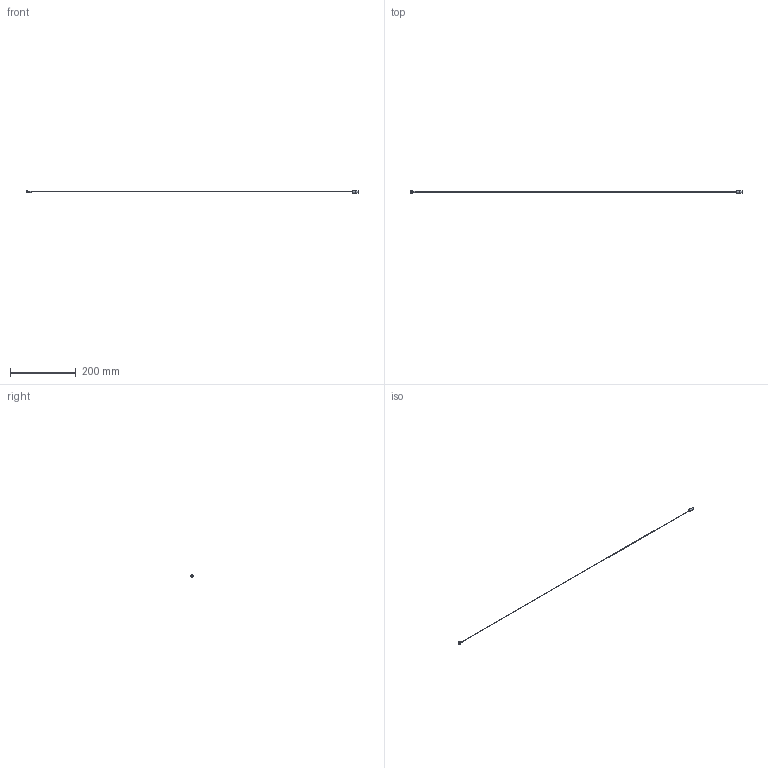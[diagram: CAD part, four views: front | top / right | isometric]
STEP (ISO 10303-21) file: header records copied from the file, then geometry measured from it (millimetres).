
FILE_DESCRIPTION( ( 'STEP AP214' ), '1' );
FILE_NAME( 'L:/99_users/sasakiyu/3Dモデル/圧力/SCB_配線収納形ボタン形/３D/SCB50_200_01KN08X06H.step', '2020-05-18T05:37:04', ( ' ' ), ( ' ' ), 'XStep 1.0', ' ', ' ' );
FILE_SCHEMA( ( 'automotive_design' ) );
Length unit declared in the file: millimetre
Products named in the file (1): 1
Bounding box: 1008 x 8 x 7 mm (x, y, z)
Volume: 1953 mm3; surface area: 4159.8 mm2
Topology: 1 solids, 1 shells, 40 faces, 104 edges, 71 vertices
Faces by surface type: cylinder 16, plane 11, torus 9, cone 3, sphere 1
Full cylindrical faces by diameter (mm): 1.1 x1, 2 x1, 3.4 x1, 4.2 x1, 6.8 x1, 6.99 x1, 7 x1
Entity records: 1609 total; most frequent: CARTESIAN_POINT 414, ORIENTED_EDGE 172, DIRECTION 164, EDGE_CURVE 86, AXIS2_PLACEMENT_3D 73, VERTEX_POINT 64, EDGE_LOOP 56, FACE_OUTER_BOUND 48
